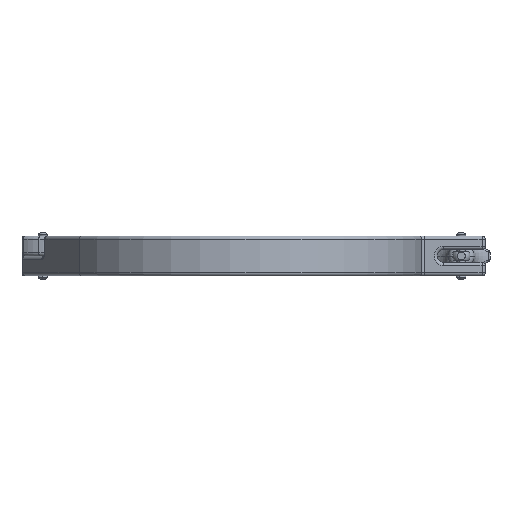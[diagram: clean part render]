
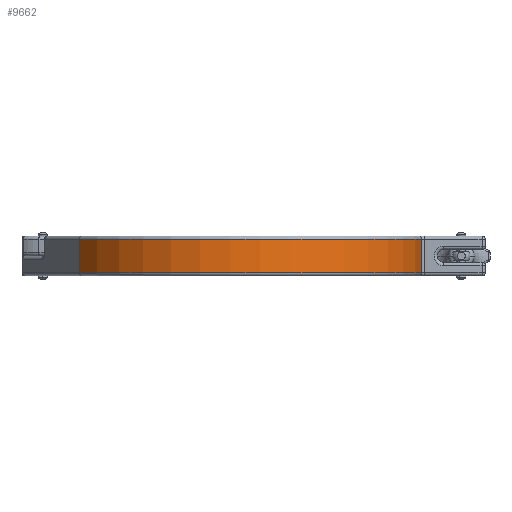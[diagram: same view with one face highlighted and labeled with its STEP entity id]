
A CAD part, front view. The second image highlights one B-rep face of the part: STEP entity #9662.
In plain terms, the highlighted cylindrical face has radius 116.15 mm (diameter 232.3 mm), a partial arc.
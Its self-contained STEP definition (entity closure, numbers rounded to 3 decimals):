
#859 = AXIS2_PLACEMENT_3D ( 'NONE', #10250, #2602, #10069 ) ;
#946 = CARTESIAN_POINT ( 'NONE',  ( 114.991, 16.368, -10.5 ) ) ;
#1311 = ORIENTED_EDGE ( 'NONE', *, *, #8235, .T. ) ;
#1660 = VERTEX_POINT ( 'NONE', #946 ) ;
#2516 = ORIENTED_EDGE ( 'NONE', *, *, #7786, .T. ) ;
#2538 = VERTEX_POINT ( 'NONE', #2955 ) ;
#2602 = DIRECTION ( 'NONE',  ( 0., 0., -1. ) ) ;
#2743 = CARTESIAN_POINT ( 'NONE',  ( 0., 0., 10.5 ) ) ;
#2790 = LINE ( 'NONE', #8432, #7190 ) ;
#2955 = CARTESIAN_POINT ( 'NONE',  ( -99.325, 60.211, -10.5 ) ) ;
#3327 = FACE_OUTER_BOUND ( 'NONE', #8320, .T. ) ;
#3366 = CARTESIAN_POINT ( 'NONE',  ( 114.991, 16.368, 10.5 ) ) ;
#3643 = VERTEX_POINT ( 'NONE', #3366 ) ;
#3807 = AXIS2_PLACEMENT_3D ( 'NONE', #2743, #4459, #8228 ) ;
#4459 = DIRECTION ( 'NONE',  ( 0., 0., -1. ) ) ;
#4642 = VECTOR ( 'NONE', #9403, 1000. ) ;
#5626 = EDGE_CURVE ( 'NONE', #8960, #3643, #8569, .T. ) ;
#6093 = LINE ( 'NONE', #8426, #4642 ) ;
#6623 = CARTESIAN_POINT ( 'NONE',  ( -99.325, 60.211, 10.5 ) ) ;
#7128 = ORIENTED_EDGE ( 'NONE', *, *, #5626, .T. ) ;
#7190 = VECTOR ( 'NONE', #10333, 1000. ) ;
#7385 = CARTESIAN_POINT ( 'NONE',  ( 0., 0., -10.5 ) ) ;
#7454 = DIRECTION ( 'NONE',  ( -1., 0., 0. ) ) ;
#7786 = EDGE_CURVE ( 'NONE', #3643, #1660, #2790, .T. ) ;
#8228 = DIRECTION ( 'NONE',  ( 1., 0., 0. ) ) ;
#8235 = EDGE_CURVE ( 'NONE', #1660, #2538, #9650, .T. ) ;
#8320 = EDGE_LOOP ( 'NONE', ( #2516, #1311, #9575, #7128 ) ) ;
#8375 = DIRECTION ( 'NONE',  ( 0., 0., 1. ) ) ;
#8426 = CARTESIAN_POINT ( 'NONE',  ( -99.325, 60.211, 12.5 ) ) ;
#8432 = CARTESIAN_POINT ( 'NONE',  ( 114.991, 16.368, 12.5 ) ) ;
#8569 = CIRCLE ( 'NONE', #3807, 116.15 ) ;
#8960 = VERTEX_POINT ( 'NONE', #6623 ) ;
#9403 = DIRECTION ( 'NONE',  ( 0., 0., -1. ) ) ;
#9575 = ORIENTED_EDGE ( 'NONE', *, *, #12017, .F. ) ;
#9650 = CIRCLE ( 'NONE', #12288, 116.15 ) ;
#9662 = ADVANCED_FACE ( 'NONE', ( #3327 ), #11226, .T. ) ;
#10069 = DIRECTION ( 'NONE',  ( -1., 0., 0. ) ) ;
#10250 = CARTESIAN_POINT ( 'NONE',  ( 0., 0., 12.5 ) ) ;
#10333 = DIRECTION ( 'NONE',  ( 0., 0., -1. ) ) ;
#11226 = CYLINDRICAL_SURFACE ( 'NONE', #859, 116.15 ) ;
#12017 = EDGE_CURVE ( 'NONE', #8960, #2538, #6093, .T. ) ;
#12288 = AXIS2_PLACEMENT_3D ( 'NONE', #7385, #8375, #7454 ) ;
